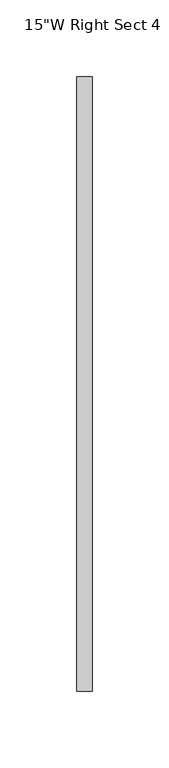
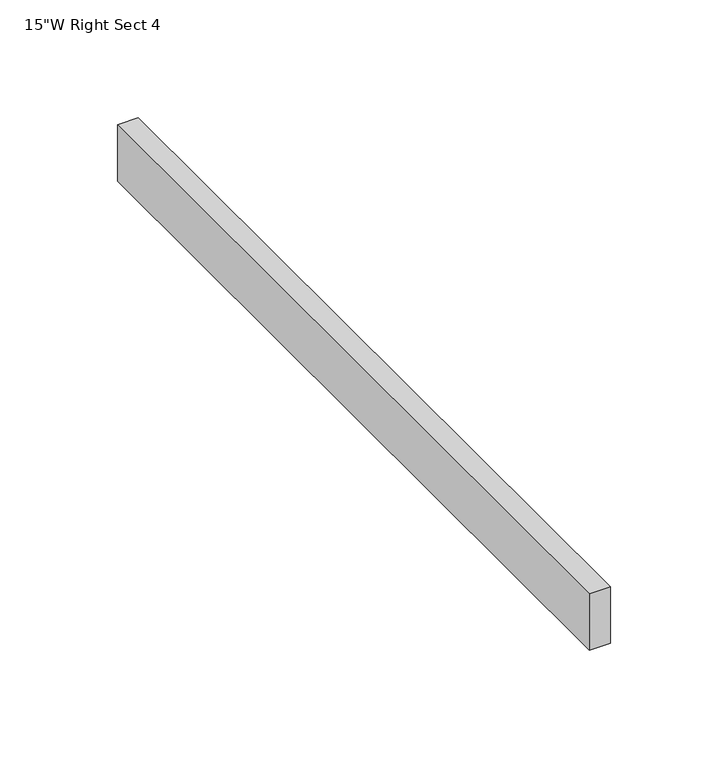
"""IFC4 building model written with IfcOpenShell, lengths in millimetres: furniture geometry."""

from ifc_helpers import new_model, si_unit, frame, origin, place, context, project, spatial, polyline, outline, extrude, source, transform, mapped, element, save


def furniture_ec4840a1(model_context):
    return source(origin(), model_context, "Body", "SweptSolid", [
        extrude(outline(polyline([(5.1854483, 200.787), (5.1854483, -200.787), (-5.0507517, -200.787), (-5.0507517, 200.787), (5.1854483, 200.787)])), frame((0.0, 0.0, 752.475), z_axis=(0.0, 0.0, 1.0), x_axis=(1.0, 0.0, 0.0)), (0.0, 0.0, 1.0), 29.4386),
    ])


if __name__ == "__main__":
    model = new_model("IFC4")
    model_context = context("Model", 3, world=origin())
    ifc_project = project(units=[si_unit("LENGTHUNIT", "METRE", prefix="MILLI")], contexts=[model_context])
    site = spatial("IfcSite", under=ifc_project)
    building = spatial("IfcBuilding", under=site)
    placement = place(None, origin())
    furniture_shape = furniture_ec4840a1(model_context)
    element("IfcFurniture", 1, ObjectType="HermanMiller_Carts_CT782_AccessoryRailSide : 15\"W Right Sect 4", at=placement, inside=building, context=model_context, shape_type="MappedRepresentation", body=[
        mapped(furniture_shape, transform((0.0, 0.0, 0.0), x_axis=(1.0, 0.0, 0.0), y_axis=(0.0, 1.0, 0.0), z_axis=(0.0, 0.0, 1.0))),
    ])
    save(model, "model.ifc")
